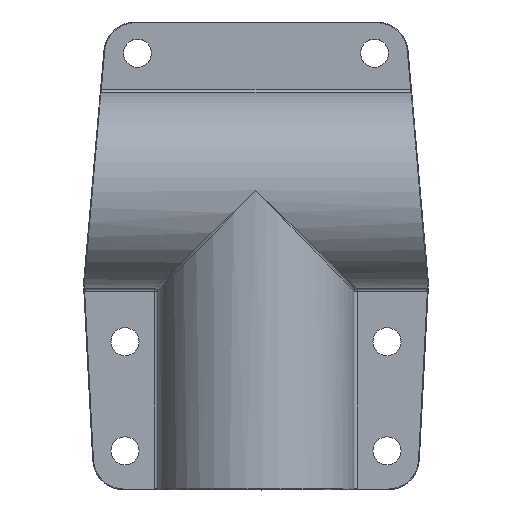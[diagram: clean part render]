
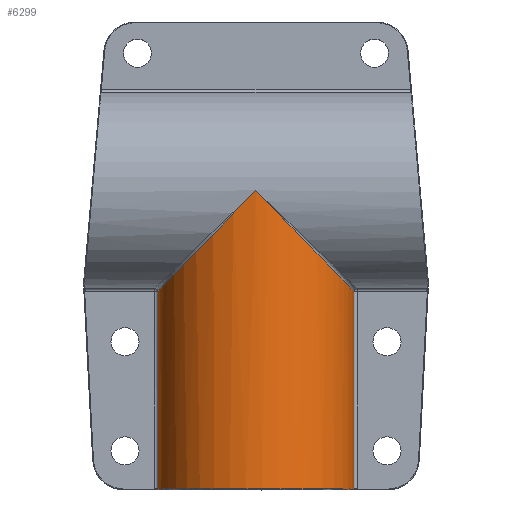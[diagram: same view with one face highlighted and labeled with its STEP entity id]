
A CAD part, top view. The second image highlights one B-rep face of the part: STEP entity #6299.
In plain terms, the highlighted cylindrical face has radius 31.65 mm (diameter 63.3 mm), a partial arc.
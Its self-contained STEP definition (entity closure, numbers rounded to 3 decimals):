
#3275=EDGE_CURVE('',#8757,#8758,#8759,.T.);
#3327=EDGE_CURVE('',#8846,#8847,#8848,.F.);
#3329=EDGE_CURVE('',#8758,#8850,#8851,.T.);
#4261=EDGE_CURVE('',#10255,#8850,#10256,.F.);
#4485=EDGE_CURVE('',#8847,#7479,#10573,.F.);
#5585=EDGE_CURVE('',#8757,#10069,#11994,.F.);
#6299=ADVANCED_FACE('',(#12840),#12841,.T.);
#6981=EDGE_CURVE('',#8846,#10255,#13642,.F.);
#7193=EDGE_CURVE('',#10069,#7479,#13884,.F.);
#7479=VERTEX_POINT('',#14357);
#8757=VERTEX_POINT('',#18071);
#8758=VERTEX_POINT('',#18072);
#8759=LINE('',#18073,#18074);
#8846=VERTEX_POINT('',#18784);
#8847=VERTEX_POINT('',#18785);
#8848=LINE('',#18786,#18787);
#8850=VERTEX_POINT('',#18790);
#8851=LINE('',#18791,#18792);
#10069=VERTEX_POINT('',#22613);
#10255=VERTEX_POINT('',#23052);
#10256=CIRCLE('',#23053,31.65);
#10573=LINE('',#24062,#24063);
#11994=B_SPLINE_CURVE_WITH_KNOTS('',5,(#28228,#28229,#28230,#28231,#28232,#28233,#28234,#28235,#28236,#28237,#28238,#28239,#28240,#28241,#28242,#28243,#28244,#28245),.UNSPECIFIED.,.F.,.F.,(6,3,3,3,3,6),(0.0,15.682,31.364,56.255,72.339,80.831),.UNSPECIFIED.);
#12840=FACE_OUTER_BOUND('',#31317,.T.);
#12841=CYLINDRICAL_SURFACE('',#31318,31.65);
#13642=CIRCLE('',#35090,31.65);
#13884=B_SPLINE_CURVE_WITH_KNOTS('',5,(#36208,#36209,#36210,#36211,#36212,#36213,#36214,#36215,#36216,#36217,#36218,#36219,#36220,#36221,#36222),.UNSPECIFIED.,.F.,.F.,(6,3,3,3,6),(28.576,53.151,78.041,93.723,109.405),.UNSPECIFIED.);
#14357=CARTESIAN_POINT('',(31.412,3.596,2.377));
#18071=CARTESIAN_POINT('',(-31.412,3.596,2.377));
#18072=CARTESIAN_POINT('',(-31.412,-59.54,2.377));
#18073=CARTESIAN_POINT('',(-31.412,-12.0,2.377));
#18074=VECTOR('',#37606,1.0);
#18784=CARTESIAN_POINT('',(31.412,-59.75,2.377));
#18785=CARTESIAN_POINT('',(31.412,-59.54,2.377));
#18786=CARTESIAN_POINT('',(31.412,-12.0,2.377));
#18787=VECTOR('',#37695,1.0);
#18790=CARTESIAN_POINT('',(-31.412,-59.75,2.377));
#18791=CARTESIAN_POINT('',(-31.412,-12.0,2.377));
#18792=VECTOR('',#37696,1.0);
#22613=CARTESIAN_POINT('',(0.,36.0,30.15));
#23052=CARTESIAN_POINT('',(27.845,-59.75,13.546));
#23053=AXIS2_PLACEMENT_3D('',#38792,#38793,#38794);
#24062=CARTESIAN_POINT('',(31.412,-12.0,2.377));
#24063=VECTOR('',#39286,1.0);
#28228=CARTESIAN_POINT('',(0.0,36.0,30.15));
#28229=CARTESIAN_POINT('',(-1.543,34.408,30.15));
#28230=CARTESIAN_POINT('',(-3.086,32.817,30.056));
#28231=CARTESIAN_POINT('',(-4.627,31.227,29.868));
#28232=CARTESIAN_POINT('',(-7.692,28.065,29.301));
#28233=CARTESIAN_POINT('',(-10.71,24.952,28.346));
#28234=CARTESIAN_POINT('',(-12.203,23.412,27.77));
#28235=CARTESIAN_POINT('',(-16.01,19.484,26.013));
#28236=CARTESIAN_POINT('',(-19.631,15.749,23.546));
#28237=CARTESIAN_POINT('',(-21.757,13.556,21.748));
#28238=CARTESIAN_POINT('',(-25.027,10.182,18.282));
#28239=CARTESIAN_POINT('',(-27.73,7.394,13.955));
#28240=CARTESIAN_POINT('',(-28.685,6.408,12.121));
#28241=CARTESIAN_POINT('',(-29.937,5.117,9.121));
#28242=CARTESIAN_POINT('',(-30.812,4.214,5.874));
#28243=CARTESIAN_POINT('',(-31.065,3.953,4.727));
#28244=CARTESIAN_POINT('',(-31.266,3.746,3.559));
#28245=CARTESIAN_POINT('',(-31.412,3.596,2.377));
#31317=EDGE_LOOP('',(#41965,#41966,#41967,#41968,#41969,#41970,#41971,#41972));
#31318=AXIS2_PLACEMENT_3D('',#41973,#41974,#41975);
#35090=AXIS2_PLACEMENT_3D('',#42965,#42966,#42967);
#36208=CARTESIAN_POINT('',(31.412,3.596,2.377));
#36209=CARTESIAN_POINT('',(30.989,4.032,5.799));
#36210=CARTESIAN_POINT('',(30.109,4.94,9.102));
#36211=CARTESIAN_POINT('',(28.826,6.263,12.126));
#36212=CARTESIAN_POINT('',(25.705,9.483,17.563));
#36213=CARTESIAN_POINT('',(21.757,13.556,21.748));
#36214=CARTESIAN_POINT('',(19.631,15.749,23.547));
#36215=CARTESIAN_POINT('',(16.01,19.484,26.013));
#36216=CARTESIAN_POINT('',(12.203,23.412,27.77));
#36217=CARTESIAN_POINT('',(10.71,24.952,28.346));
#36218=CARTESIAN_POINT('',(7.692,28.065,29.301));
#36219=CARTESIAN_POINT('',(4.627,31.227,29.868));
#36220=CARTESIAN_POINT('',(3.086,32.817,30.056));
#36221=CARTESIAN_POINT('',(1.543,34.408,30.15));
#36222=CARTESIAN_POINT('',(0.0,36.0,30.15));
#37606=DIRECTION('',(0.0,-1.0,0.0));
#37695=DIRECTION('',(0.0,-1.0,0.0));
#37696=DIRECTION('',(0.0,-1.0,0.0));
#38792=CARTESIAN_POINT('',(0.0,-59.75,-1.5));
#38793=DIRECTION('',(-0.0,1.0,0.0));
#38794=DIRECTION('',(1.0,0.0,0.0));
#39286=DIRECTION('',(0.0,-1.0,0.0));
#41965=ORIENTED_EDGE('',*,*,#5585,.F.);
#41966=ORIENTED_EDGE('',*,*,#3275,.T.);
#41967=ORIENTED_EDGE('',*,*,#3329,.T.);
#41968=ORIENTED_EDGE('',*,*,#4261,.F.);
#41969=ORIENTED_EDGE('',*,*,#6981,.F.);
#41970=ORIENTED_EDGE('',*,*,#3327,.T.);
#41971=ORIENTED_EDGE('',*,*,#4485,.T.);
#41972=ORIENTED_EDGE('',*,*,#7193,.F.);
#41973=CARTESIAN_POINT('',(0.0,-12.0,-1.5));
#41974=DIRECTION('',(-0.0,-1.0,0.0));
#41975=DIRECTION('',(-0.999,0.0,0.047));
#42965=CARTESIAN_POINT('',(0.0,-59.75,-1.5));
#42966=DIRECTION('',(-0.0,1.0,0.0));
#42967=DIRECTION('',(1.0,0.0,0.0));
